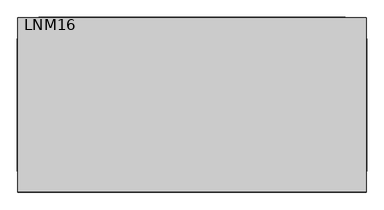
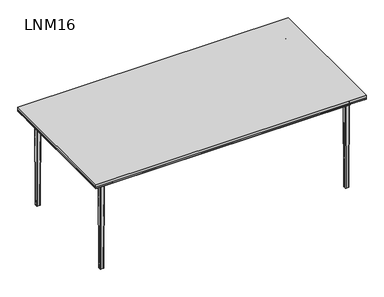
"""IFC4 building model written with IfcOpenShell, lengths in millimetres: furniture geometry, Contact Desks and Operative Twin Desks : LNM16."""

from ifc_helpers import new_model, si_unit, point, frame, origin, place, context, project, spatial, polyline, circle_curve, ellipse_curve, trimmed, outline, extrude, faceted_brep, source, transform, mapped, element, save
from ifc_brep_helpers import plane_surface, cylinder_surface, revolved_surface, extruded_surface, advanced_brep


def lnm16_9b7a4f71(model_context):
    return source(origin(), model_context, "Body", "SolidModel", [
        extrude(outline(polyline([(1000.0, -380.0), (1000.0, -500.0), (880.0, -500.0), (880.0, -380.0), (1000.0, -380.0)])), frame((0.0, 0.0, 710.0), z_axis=(0.0, 0.0, 1.0), x_axis=(1.0, 0.0, 0.0)), (0.0, 0.0, 1.0), 10.0),
        extrude(outline(polyline([(1000.0, 500.0), (1000.0, 380.0), (880.0, 380.0), (880.0, 500.0), (1000.0, 500.0)])), frame((0.0, 0.0, 710.0), z_axis=(0.0, 0.0, 1.0), x_axis=(1.0, 0.0, 0.0)), (0.0, 0.0, 1.0), 10.0),
        extrude(outline(polyline([(-880.0, 500.0), (-880.0, 380.0), (-1000.0, 380.0), (-1000.0, 500.0), (-880.0, 500.0)])), frame((0.0, 0.0, 710.0), z_axis=(0.0, 0.0, 1.0), x_axis=(1.0, 0.0, 0.0)), (0.0, 0.0, 1.0), 10.0),
        extrude(outline(polyline([(-1000.0, 380.0), (-880.0, 380.0), (-880.0, -380.0), (-1000.0, -380.0), (-1000.0, 380.0)])), frame((0.0, 0.0, 710.0), z_axis=(0.0, 0.0, 1.0), x_axis=(1.0, 0.0, 0.0)), (0.0, 0.0, 1.0), 10.0),
        extrude(outline(polyline([(880.0, 380.0), (1000.0, 380.0), (1000.0, -380.0), (880.0, -380.0), (880.0, 380.0)])), frame((0.0, 0.0, 710.0), z_axis=(0.0, 0.0, 1.0), x_axis=(1.0, 0.0, 0.0)), (0.0, 0.0, 1.0), 10.0),
        extrude(outline(polyline([(880.0, -380.0), (880.0, -500.0), (-880.0, -500.0), (-880.0, -380.0), (880.0, -380.0)])), frame((0.0, 0.0, 710.0), z_axis=(0.0, 0.0, 1.0), x_axis=(1.0, 0.0, 0.0)), (0.0, 0.0, 1.0), 10.0),
        extrude(outline(polyline([(880.0, 500.0), (880.0, 380.0), (-880.0, 380.0), (-880.0, 500.0), (880.0, 500.0)])), frame((0.0, 0.0, 710.0), z_axis=(0.0, 0.0, 1.0), x_axis=(1.0, 0.0, 0.0)), (0.0, 0.0, 1.0), 10.0),
        extrude(outline(polyline([(710.0, 880.0), (675.0, 880.0), (675.0, 928.7129935), (710.0, 1001.7129935), (710.0, 880.0)])), frame((0.0, -380.0, 0.0), z_axis=(0.0, 1.0, 0.0), x_axis=(0.0, 0.0, 1.0)), (0.0, 0.0, 1.0), 760.0),
        extrude(outline(polyline([(710.0, -880.0), (710.0, -1001.7129935), (675.0, -928.7129935), (675.0, -880.0), (710.0, -880.0)])), frame((0.0, -380.0, 0.0), z_axis=(0.0, 1.0, 0.0), x_axis=(0.0, 0.0, 1.0)), (0.0, 0.0, 1.0), 760.0),
        extrude(outline(polyline([(380.0, 710.0), (501.7129935, 710.0), (428.7129935, 675.0), (380.0, 675.0), (380.0, 710.0)])), frame((-880.0, 0.0, 0.0), z_axis=(1.0, 0.0, 0.0), x_axis=(0.0, 1.0, 0.0)), (0.0, 0.0, 1.0), 1760.0),
        extrude(outline(polyline([(-380.0, 710.0), (-380.0, 675.0), (-428.7129935, 675.0), (-501.7129935, 710.0), (-380.0, 710.0)])), frame((-880.0, 0.0, 0.0), z_axis=(1.0, 0.0, 0.0), x_axis=(0.0, 1.0, 0.0)), (0.0, 0.0, 1.0), 1760.0),
        faceted_brep([(-880.0, 380.0, 710.0), (-880.0, 500.0, 710.0), (-1000.0, 500.0, 710.0), (-1000.0, 380.0, 710.0), (-880.0, 380.0, 675.0), (-927.0, 380.0, 675.0), (-927.0, 427.0, 675.0), (-880.0, 427.0, 675.0)], [[[0, 1, 2, 3]], [[4, 5, 6, 7]], [[1, 0, 4, 7]], [[0, 3, 5, 4]], [[6, 2, 1, 7]], [[2, 6, 5, 3]]]),
        advanced_brep(
        [(-887.0, 395.0, 675.0), (-887.0, 419.0, 675.0), (-895.0, 427.0, 675.0), (-919.0, 427.0, 675.0), (-927.0, 419.0, 675.0), (-927.0, 395.0, 675.0), (-919.0, 387.0, 675.0), (-895.0, 387.0, 675.0), (-919.0, 392.0, 665.0), (-922.0, 395.0, 665.0), (-922.0, 419.0, 665.0), (-919.0, 422.0, 665.0), (-895.0, 422.0, 665.0), (-892.0, 419.0, 665.0), (-892.0, 395.0, 665.0), (-895.0, 392.0, 665.0), (-887.0, 395.0, 672.0), (-887.0, 419.0, 672.0), (-895.0, 427.0, 672.0), (-919.0, 427.0, 672.0), (-927.0, 419.0, 672.0), (-927.0, 395.0, 672.0), (-919.0, 387.0, 672.0), (-895.0, 387.0, 672.0)],
        [
            (0, 1),
            (1, 2, circle_curve(frame((-895.0, 419.0, 675.0), z_axis=(0.0, 0.0, 1.0), x_axis=(0.0, -1.0000000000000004, 0.0)), 8.0)),
            (2, 3),
            (3, 4, circle_curve(frame((-919.0, 419.0, 675.0), z_axis=(0.0, 0.0, 1.0), x_axis=(0.0, -1.0000000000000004, 0.0)), 8.0)),
            (4, 5),
            (5, 6, circle_curve(frame((-919.0, 395.0, 675.0), z_axis=(0.0, 0.0, 1.0), x_axis=(0.0, -1.0000000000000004, 0.0)), 8.0)),
            (6, 7),
            (7, 0, circle_curve(frame((-895.0, 395.0, 675.0), z_axis=(0.0, 0.0, 1.0), x_axis=(0.0, -1.0000000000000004, 0.0)), 8.0)),
            (8, 9, circle_curve(frame((-919.0, 395.0, 665.0), z_axis=(0.0, 0.0, -1.0), x_axis=(0.0, -1.0000000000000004, 0.0)), 3.0)),
            (9, 10),
            (10, 11, circle_curve(frame((-919.0, 419.0, 665.0), z_axis=(0.0, 0.0, -1.0), x_axis=(-1.0000000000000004, 0.0, 0.0)), 3.0)),
            (11, 12),
            (12, 13, circle_curve(frame((-895.0, 419.0, 665.0), z_axis=(0.0, 0.0, -1.0), x_axis=(0.0, 1.0000000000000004, 0.0)), 3.0)),
            (13, 14),
            (14, 15, circle_curve(frame((-895.0, 395.0, 665.0), z_axis=(0.0, 0.0, -1.0), x_axis=(1.0000000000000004, 0.0, 0.0)), 3.0)),
            (15, 8),
            (0, 16),
            (16, 17),
            (17, 1),
            (17, 18, circle_curve(frame((-895.0, 419.0, 672.0), z_axis=(0.0, 0.0, 1.0), x_axis=(0.0, -1.0000000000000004, 0.0)), 8.0)),
            (18, 2),
            (18, 19),
            (19, 3),
            (19, 20, circle_curve(frame((-919.0, 419.0, 672.0), z_axis=(0.0, 0.0, 1.0), x_axis=(0.0, -1.0000000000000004, 0.0)), 8.0)),
            (20, 4),
            (20, 21),
            (21, 5),
            (21, 22, circle_curve(frame((-919.0, 395.0, 672.0), z_axis=(0.0, 0.0, 1.0), x_axis=(0.0, -1.0000000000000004, 0.0)), 8.0)),
            (22, 6),
            (22, 23),
            (23, 7),
            (23, 16, circle_curve(frame((-895.0, 395.0, 672.0), z_axis=(0.0, 0.0, 1.0), x_axis=(0.0, -1.0000000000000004, 0.0)), 8.0)),
            (21, 9, circle_curve(frame((-930.9600528, 395.0, 663.8856766), z_axis=(0.0, 1.0000000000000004, 0.0), x_axis=(-1.0000000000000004, 0.0, 0.0)), 9.0290787)),
            (8, 22, circle_curve(frame((-919.0, 383.0399472, 663.8856766), z_axis=(1.0000000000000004, 0.0, 0.0), x_axis=(0.0, -1.0000000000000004, 0.0)), 9.0290787)),
            (20, 10, circle_curve(frame((-930.9600528, 419.0, 663.8856766), z_axis=(0.0, 1.0, 0.0), x_axis=(-1.0000000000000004, 0.0, 0.0)), 9.0290787)),
            (19, 11, circle_curve(frame((-919.0, 430.9600528, 663.8856766), z_axis=(1.0000000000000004, 0.0, 0.0), x_axis=(0.0, 1.0000000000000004, 0.0)), 9.0290787)),
            (18, 12, circle_curve(frame((-895.0, 430.9600528, 663.8856766), z_axis=(1.0, 0.0, 0.0), x_axis=(0.0, 1.0000000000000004, 0.0)), 9.0290787)),
            (17, 13, circle_curve(frame((-883.0399472, 419.0, 663.8856766), z_axis=(0.0, -1.0000000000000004, 0.0), x_axis=(1.0000000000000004, 0.0, 0.0)), 9.0290787)),
            (16, 14, circle_curve(frame((-883.0399472, 395.0, 663.8856766), z_axis=(0.0, -1.0, 0.0), x_axis=(1.0000000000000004, 0.0, 0.0)), 9.0290787)),
            (23, 15, circle_curve(frame((-895.0, 383.0399472, 663.8856766), z_axis=(-1.0000000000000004, 0.0, 0.0), x_axis=(0.0, -1.0000000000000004, 0.0)), 9.0290787)),
        ],
        [
            plane_surface(frame((-887.0, 1080.663284, 675.0), z_axis=(0.0, 0.0, 1.0), x_axis=(0.0, 1.0, 0.0))),
            plane_surface(frame((-887.0, 1080.663284, 665.0), z_axis=(0.0, 0.0, -1.0), x_axis=(0.0, -1.0, 0.0))),
            plane_surface(frame((-887.0, 395.0, 675.0), z_axis=(1.0, 0.0, 0.0), x_axis=(0.0, 0.0, -1.0))),
            cylinder_surface(frame((-895.0, 419.0, 665.0), z_axis=(0.0, 0.0, 1.0), x_axis=(0.0, -1.0000000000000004, 0.0)), 8.0),
            plane_surface(frame((-895.0, 427.0, 675.0), z_axis=(0.0, 1.0, 0.0), x_axis=(0.0, 0.0, -1.0))),
            cylinder_surface(frame((-919.0, 419.0, 665.0), z_axis=(0.0, 0.0, 1.0), x_axis=(0.0, -1.0000000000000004, 0.0)), 8.0),
            plane_surface(frame((-927.0, 419.0, 675.0), z_axis=(-1.0, 0.0, 0.0), x_axis=(0.0, 0.0, -1.0))),
            cylinder_surface(frame((-919.0, 395.0, 665.0), z_axis=(0.0, 0.0, 1.0), x_axis=(0.0, -1.0000000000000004, 0.0)), 8.0),
            plane_surface(frame((-919.0, 387.0, 675.0), z_axis=(0.0, -1.0, 0.0), x_axis=(0.0, 0.0, -1.0))),
            cylinder_surface(frame((-895.0, 395.0, 665.0), z_axis=(0.0, 0.0, 1.0), x_axis=(0.0, -1.0000000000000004, 0.0)), 8.0),
            revolved_surface(trimmed(ellipse_curve(frame((-919.0, 383.0399472, 663.8856766), z_axis=(-1.0000000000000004, 0.0, 0.0), x_axis=(0.0, -1.0000000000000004, 0.0)), 9.0290787, 9.0290787), [point((-919.0, 387.0, 672.0))], [point((-919.0, 392.0, 665.0))], True, "CARTESIAN"), (-919.0, 395.0, 0.0), (0.0, 0.0, -1.0)),
            revolved_surface(polyline([(-939.9891315, 395.0, 663.8856766), (-939.9891315, 419.0, 663.8856766)]), (-930.9600528, 395.0, 663.8856766), (0.0, -1.0000000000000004, 0.0)),
            revolved_surface(trimmed(ellipse_curve(frame((-930.9600528, 419.0, 663.8856766), z_axis=(0.0, 1.0000000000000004, 0.0), x_axis=(-1.0000000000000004, 0.0, 0.0)), 9.0290787, 9.0290787), [point((-927.0, 419.0, 672.0))], [point((-922.0, 419.0, 665.0))], True, "CARTESIAN"), (-919.0, 419.0, 0.0), (0.0, 0.0, -1.0)),
            revolved_surface(polyline([(-919.0, 439.98913150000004, 663.8856766), (-895.0, 439.98913150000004, 663.8856766)]), (-919.0, 430.9600528, 663.8856766), (-1.0000000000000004, 0.0, 0.0)),
            revolved_surface(trimmed(ellipse_curve(frame((-895.0, 430.9600528, 663.8856766), z_axis=(1.0000000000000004, 0.0, 0.0), x_axis=(0.0, 1.0000000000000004, 0.0)), 9.0290787, 9.0290787), [point((-895.0, 427.0, 672.0))], [point((-895.0, 422.0, 665.0))], True, "CARTESIAN"), (-895.0, 419.0, 0.0), (0.0, 0.0, -1.0)),
            revolved_surface(polyline([(-874.0108685, 419.0, 663.8856766), (-874.0108685, 395.0, 663.8856766)]), (-883.0399472, 419.0, 663.8856766), (0.0, 1.0000000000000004, 0.0)),
            revolved_surface(trimmed(ellipse_curve(frame((-883.0399472, 395.0, 663.8856766), z_axis=(0.0, -1.0000000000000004, 0.0), x_axis=(1.0000000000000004, 0.0, 0.0)), 9.0290787, 9.0290787), [point((-887.0, 395.0, 672.0))], [point((-892.0, 395.0, 665.0))], True, "CARTESIAN"), (-895.0, 395.0, 0.0), (0.0, 0.0, -1.0)),
            revolved_surface(polyline([(-895.0, 374.01086849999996, 663.8856766), (-919.0, 374.01086849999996, 663.8856766)]), (-895.0, 383.0399472, 663.8856766), (1.0000000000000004, 0.0, 0.0)),
        ],
        [
            (0, [[1, 2, 3, 4, 5, 6, 7, 8]]),
            (1, [[9, 10, 11, 12, 13, 14, 15, 16]]),
            (2, [[-1, 17, 18, 19]]),
            (3, [[-2, -19, 20, 21]]),
            (4, [[-3, -21, 22, 23]]),
            (5, [[-4, -23, 24, 25]]),
            (6, [[-5, -25, 26, 27]]),
            (7, [[-6, -27, 28, 29]]),
            (8, [[-7, -29, 30, 31]]),
            (9, [[-8, -31, 32, -17]]),
            (10, [[33, -9, 34, -28]]),
            (11, [[-33, -26, 35, -10]]),
            (12, [[-35, -24, 36, -11]]),
            (13, [[-36, -22, 37, -12]]),
            (14, [[-37, -20, 38, -13]]),
            (15, [[-38, -18, 39, -14]]),
            (16, [[-39, -32, 40, -15]]),
            (17, [[-34, -16, -40, -30]]),
        ],
    ),
        advanced_brep(
        [(-919.0, 422.0, 665.0), (-922.0, 419.0, 665.0), (-922.0, 395.0, 665.0), (-919.0, 392.0, 665.0), (-895.0, 392.0, 665.0), (-892.0, 395.0, 665.0), (-892.0, 419.0, 665.0), (-895.0, 422.0, 665.0), (-916.0, 419.0, 0.0), (-898.0, 419.0, 0.0), (-895.0, 416.0, 0.0), (-895.0, 398.0, 0.0), (-898.0, 395.0, 0.0), (-916.0, 395.0, 0.0), (-919.0, 398.0, 0.0), (-919.0, 416.0, 0.0)],
        [
            (0, 1, circle_curve(frame((-919.0, 419.0, 665.0), z_axis=(0.0, 0.0, 1.0), x_axis=(0.0, -1.0, 0.0)), 3.0)),
            (1, 2),
            (2, 3, circle_curve(frame((-919.0, 395.0, 665.0), z_axis=(0.0, 0.0, 1.0), x_axis=(0.0, -1.0, 0.0)), 3.0)),
            (3, 4),
            (4, 5, circle_curve(frame((-895.0, 395.0, 665.0), z_axis=(0.0, 0.0, 1.0), x_axis=(0.0, -1.0, 0.0)), 3.0)),
            (5, 6),
            (6, 7, circle_curve(frame((-895.0, 419.0, 665.0), z_axis=(0.0, 0.0, 1.0), x_axis=(0.0, -1.0, 0.0)), 3.0)),
            (7, 0),
            (8, 9),
            (9, 10, circle_curve(frame((-898.0, 416.0, 0.0), z_axis=(0.0, 0.0, -1.0), x_axis=(0.0, -1.0, 0.0)), 3.0)),
            (10, 11),
            (11, 12, circle_curve(frame((-898.0, 398.0, 0.0), z_axis=(0.0, 0.0, -1.0), x_axis=(0.0, -1.0, 0.0)), 3.0)),
            (12, 13),
            (13, 14, circle_curve(frame((-916.0, 398.0, 0.0), z_axis=(0.0, 0.0, -1.0), x_axis=(0.0, -1.0, 0.0)), 3.0)),
            (14, 15),
            (15, 8, circle_curve(frame((-916.0, 416.0, 0.0), z_axis=(0.0, 0.0, -1.0), x_axis=(0.0, -1.0, 0.0)), 3.0)),
            (15, 1),
            (0, 8),
            (14, 2),
            (13, 3),
            (12, 4),
            (11, 5),
            (10, 6),
            (9, 7),
        ],
        [
            plane_surface(frame((-907.0, 407.0, 665.0), z_axis=(0.0, 0.0, 1.0), x_axis=(0.0, 1.0, 0.0))),
            plane_surface(frame((-907.0, 407.0, 0.0), z_axis=(0.0, 0.0, -1.0), x_axis=(0.0, 1.0, 0.0))),
            extruded_surface(trimmed(circle_curve(frame((-916.0, 416.0, 0.0), z_axis=(0.0, 0.0, 1.0), x_axis=(0.0, -1.0, 0.0)), 3.0), [point((-916.0, 419.0, 0.0))], [point((-919.0, 416.0, 0.0))], True, "CARTESIAN"), (-3.0, 3.0, 665.0), 665.0135336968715),
            plane_surface(frame((-919.0, 407.0, 0.0), z_axis=(-0.9999898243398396, 0.0, -0.004511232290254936), x_axis=(0.0, -1.0, 0.0))),
            extruded_surface(trimmed(circle_curve(frame((-916.0, 398.0, 0.0), z_axis=(0.0, 0.0, 1.0), x_axis=(0.0, -1.0, 0.0)), 3.0), [point((-919.0, 398.0, 0.0))], [point((-916.0, 395.0, 0.0))], True, "CARTESIAN"), (-3.0, -3.0, 665.0), 665.0135336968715),
            plane_surface(frame((-907.0, 395.0, 0.0), z_axis=(0.0, -0.9999898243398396, -0.004511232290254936), x_axis=(1.0, 0.0, 0.0))),
            extruded_surface(trimmed(circle_curve(frame((-898.0, 398.0, 0.0), z_axis=(0.0, 0.0, 1.0), x_axis=(0.0, -1.0, 0.0)), 3.0), [point((-898.0, 395.0, 0.0))], [point((-895.0, 398.0, 0.0))], True, "CARTESIAN"), (3.0, -3.0, 665.0), 665.0135336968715),
            plane_surface(frame((-895.0, 407.0, 0.0), z_axis=(0.9999898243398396, 0.0, -0.004511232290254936), x_axis=(0.0, 1.0, 0.0))),
            extruded_surface(trimmed(circle_curve(frame((-898.0, 416.0, 0.0), z_axis=(0.0, 0.0, 1.0), x_axis=(0.0, -1.0, 0.0)), 3.0), [point((-895.0, 416.0, 0.0))], [point((-898.0, 419.0, 0.0))], True, "CARTESIAN"), (3.0, 3.0, 665.0), 665.0135336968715),
            plane_surface(frame((-907.0, 419.0, 0.0), z_axis=(0.0, 0.9999898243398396, -0.004511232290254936), x_axis=(-1.0, 0.0, 0.0))),
        ],
        [
            (0, [[1, 2, 3, 4, 5, 6, 7, 8]]),
            (1, [[9, 10, 11, 12, 13, 14, 15, 16]]),
            (2, [[-16, 17, -1, 18]]),
            (3, [[-15, 19, -2, -17]]),
            (4, [[-14, 20, -3, -19]]),
            (5, [[-13, 21, -4, -20]]),
            (6, [[-12, 22, -5, -21]]),
            (7, [[-11, 23, -6, -22]]),
            (8, [[-10, 24, -7, -23]]),
            (9, [[-9, -18, -8, -24]]),
        ],
    ),
        faceted_brep([(880.0, -380.0, 710.0), (880.0, -500.0, 710.0), (1000.0, -500.0, 710.0), (1000.0, -380.0, 710.0), (880.0, -380.0, 675.0), (927.0, -380.0, 675.0), (927.0, -427.0, 675.0), (880.0, -427.0, 675.0)], [[[0, 1, 2, 3]], [[4, 5, 6, 7]], [[1, 0, 4, 7]], [[0, 3, 5, 4]], [[6, 2, 1, 7]], [[2, 6, 5, 3]]]),
        advanced_brep(
        [(887.0, -395.0, 675.0), (887.0, -419.0, 675.0), (895.0, -427.0, 675.0), (919.0, -427.0, 675.0), (927.0, -419.0, 675.0), (927.0, -395.0, 675.0), (919.0, -387.0, 675.0), (895.0, -387.0, 675.0), (919.0, -392.0, 665.0), (922.0, -395.0, 665.0), (922.0, -419.0, 665.0), (919.0, -422.0, 665.0), (895.0, -422.0, 665.0), (892.0, -419.0, 665.0), (892.0, -395.0, 665.0), (895.0, -392.0, 665.0), (887.0, -395.0, 672.0), (887.0, -419.0, 672.0), (895.0, -427.0, 672.0), (919.0, -427.0, 672.0), (927.0, -419.0, 672.0), (927.0, -395.0, 672.0), (919.0, -387.0, 672.0), (895.0, -387.0, 672.0)],
        [
            (0, 1),
            (1, 2, circle_curve(frame((895.0, -419.0, 675.0), z_axis=(0.0, 0.0, 1.0), x_axis=(0.0, 1.0000000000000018, 0.0)), 8.0)),
            (2, 3),
            (3, 4, circle_curve(frame((919.0, -419.0, 675.0), z_axis=(0.0, 0.0, 1.0), x_axis=(0.0, 1.0000000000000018, 0.0)), 8.0)),
            (4, 5),
            (5, 6, circle_curve(frame((919.0, -395.0, 675.0), z_axis=(0.0, 0.0, 1.0), x_axis=(0.0, 1.0000000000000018, 0.0)), 8.0)),
            (6, 7),
            (7, 0, circle_curve(frame((895.0, -395.0, 675.0), z_axis=(0.0, 0.0, 1.0), x_axis=(0.0, 1.0000000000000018, 0.0)), 8.0)),
            (8, 9, circle_curve(frame((919.0, -395.0, 665.0), z_axis=(0.0, 0.0, -1.0), x_axis=(0.0, 1.0000000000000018, 0.0)), 3.0)),
            (9, 10),
            (10, 11, circle_curve(frame((919.0, -419.0, 665.0), z_axis=(0.0, 0.0, -1.0), x_axis=(1.0000000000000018, 0.0, 0.0)), 3.0)),
            (11, 12),
            (12, 13, circle_curve(frame((895.0, -419.0, 665.0), z_axis=(0.0, 0.0, -1.0), x_axis=(0.0, -1.0000000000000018, 0.0)), 3.0)),
            (13, 14),
            (14, 15, circle_curve(frame((895.0, -395.0, 665.0), z_axis=(0.0, 0.0, -1.0), x_axis=(-1.0000000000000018, 0.0, 0.0)), 3.0)),
            (15, 8),
            (0, 16),
            (16, 17),
            (17, 1),
            (17, 18, circle_curve(frame((895.0, -419.0, 672.0), z_axis=(0.0, 0.0, 1.0), x_axis=(0.0, 1.0000000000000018, 0.0)), 8.0)),
            (18, 2),
            (18, 19),
            (19, 3),
            (19, 20, circle_curve(frame((919.0, -419.0, 672.0), z_axis=(0.0, 0.0, 1.0), x_axis=(0.0, 1.0000000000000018, 0.0)), 8.0)),
            (20, 4),
            (20, 21),
            (21, 5),
            (21, 22, circle_curve(frame((919.0, -395.0, 672.0), z_axis=(0.0, 0.0, 1.0), x_axis=(0.0, 1.0000000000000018, 0.0)), 8.0)),
            (22, 6),
            (22, 23),
            (23, 7),
            (23, 16, circle_curve(frame((895.0, -395.0, 672.0), z_axis=(0.0, 0.0, 1.0), x_axis=(0.0, 1.0000000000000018, 0.0)), 8.0)),
            (21, 9, circle_curve(frame((930.9600528, -395.0, 663.8856766), z_axis=(0.0, -1.0000000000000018, 0.0), x_axis=(1.0000000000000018, 0.0, 0.0)), 9.0290787)),
            (8, 22, circle_curve(frame((919.0, -383.0399472, 663.8856766), z_axis=(-1.0000000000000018, 0.0, 0.0), x_axis=(0.0, 1.0000000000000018, 0.0)), 9.0290787)),
            (20, 10, circle_curve(frame((930.9600528, -419.0, 663.8856766), z_axis=(0.0, -1.0, 0.0), x_axis=(1.0000000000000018, 0.0, 0.0)), 9.0290787)),
            (19, 11, circle_curve(frame((919.0, -430.9600528, 663.8856766), z_axis=(-1.0000000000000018, 0.0, 0.0), x_axis=(0.0, -1.0000000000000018, 0.0)), 9.0290787)),
            (18, 12, circle_curve(frame((895.0, -430.9600528, 663.8856766), z_axis=(-1.0, 0.0, 0.0), x_axis=(0.0, -1.0000000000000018, 0.0)), 9.0290787)),
            (17, 13, circle_curve(frame((883.0399472, -419.0, 663.8856766), z_axis=(0.0, 1.0000000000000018, 0.0), x_axis=(-1.0000000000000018, 0.0, 0.0)), 9.0290787)),
            (16, 14, circle_curve(frame((883.0399472, -395.0, 663.8856766), z_axis=(0.0, 1.0, 0.0), x_axis=(-1.0000000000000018, 0.0, 0.0)), 9.0290787)),
            (23, 15, circle_curve(frame((895.0, -383.0399472, 663.8856766), z_axis=(1.0000000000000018, 0.0, 0.0), x_axis=(0.0, 1.0000000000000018, 0.0)), 9.0290787)),
        ],
        [
            plane_surface(frame((887.0, -1080.663284, 675.0), z_axis=(0.0, 0.0, 1.0), x_axis=(0.0, -1.0, 0.0))),
            plane_surface(frame((887.0, -1080.663284, 665.0), z_axis=(0.0, 0.0, -1.0), x_axis=(0.0, 1.0, 0.0))),
            plane_surface(frame((887.0, -395.0, 675.0), z_axis=(-1.0, 0.0, 0.0), x_axis=(0.0, 0.0, -1.0))),
            cylinder_surface(frame((895.0, -419.0, 665.0), z_axis=(0.0, 0.0, 1.0), x_axis=(0.0, 1.0000000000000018, 0.0)), 8.0),
            plane_surface(frame((895.0, -427.0, 675.0), z_axis=(0.0, -1.0, 0.0), x_axis=(0.0, 0.0, -1.0))),
            cylinder_surface(frame((919.0, -419.0, 665.0), z_axis=(0.0, 0.0, 1.0), x_axis=(0.0, 1.0000000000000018, 0.0)), 8.0),
            plane_surface(frame((927.0, -419.0, 675.0), z_axis=(1.0, 0.0, 0.0), x_axis=(0.0, 0.0, -1.0))),
            cylinder_surface(frame((919.0, -395.0, 665.0), z_axis=(0.0, 0.0, 1.0), x_axis=(0.0, 1.0000000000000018, 0.0)), 8.0),
            plane_surface(frame((919.0, -387.0, 675.0), z_axis=(0.0, 1.0, 0.0), x_axis=(0.0, 0.0, -1.0))),
            cylinder_surface(frame((895.0, -395.0, 665.0), z_axis=(0.0, 0.0, 1.0), x_axis=(0.0, 1.0000000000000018, 0.0)), 8.0),
            revolved_surface(trimmed(ellipse_curve(frame((919.0, -383.0399472, 663.8856766), z_axis=(1.0000000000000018, 0.0, 0.0), x_axis=(0.0, 1.0000000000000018, 0.0)), 9.0290787, 9.0290787), [point((919.0, -387.0, 672.0))], [point((919.0, -392.0, 665.0))], True, "CARTESIAN"), (919.0, -395.0, 0.0), (0.0, 0.0, -1.0)),
            revolved_surface(polyline([(939.9891315, -395.0, 663.8856766), (939.9891315, -419.0000000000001, 663.8856766)]), (930.9600528, -395.0, 663.8856766), (0.0, 1.0000000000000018, 0.0)),
            revolved_surface(trimmed(ellipse_curve(frame((930.9600528, -419.0, 663.8856766), z_axis=(0.0, -1.0000000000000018, 0.0), x_axis=(1.0000000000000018, 0.0, 0.0)), 9.0290787, 9.0290787), [point((927.0, -419.0, 672.0))], [point((922.0, -419.0, 665.0))], True, "CARTESIAN"), (919.0, -419.0, 0.0), (0.0, 0.0, -1.0)),
            revolved_surface(polyline([(919.0, -439.98913150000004, 663.8856766), (894.9999999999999, -439.98913150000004, 663.8856766)]), (919.0, -430.9600528, 663.8856766), (1.0000000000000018, 0.0, 0.0)),
            revolved_surface(trimmed(ellipse_curve(frame((895.0, -430.9600528, 663.8856766), z_axis=(-1.0000000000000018, 0.0, 0.0), x_axis=(0.0, -1.0000000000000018, 0.0)), 9.0290787, 9.0290787), [point((895.0, -427.0, 672.0))], [point((895.0, -422.0, 665.0))], True, "CARTESIAN"), (895.0, -419.0, 0.0), (0.0, 0.0, -1.0)),
            revolved_surface(polyline([(874.0108685, -419.0, 663.8856766), (874.0108685, -394.9999999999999, 663.8856766)]), (883.0399472, -419.0, 663.8856766), (0.0, -1.0000000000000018, 0.0)),
            revolved_surface(trimmed(ellipse_curve(frame((883.0399472, -395.0, 663.8856766), z_axis=(0.0, 1.0000000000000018, 0.0), x_axis=(-1.0000000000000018, 0.0, 0.0)), 9.0290787, 9.0290787), [point((887.0, -395.0, 672.0))], [point((892.0, -395.0, 665.0))], True, "CARTESIAN"), (895.0, -395.0, 0.0), (0.0, 0.0, -1.0)),
            revolved_surface(polyline([(895.0, -374.01086849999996, 663.8856766), (919.0000000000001, -374.01086849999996, 663.8856766)]), (895.0, -383.0399472, 663.8856766), (-1.0000000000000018, 0.0, 0.0)),
        ],
        [
            (0, [[1, 2, 3, 4, 5, 6, 7, 8]]),
            (1, [[9, 10, 11, 12, 13, 14, 15, 16]]),
            (2, [[-1, 17, 18, 19]]),
            (3, [[-2, -19, 20, 21]]),
            (4, [[-3, -21, 22, 23]]),
            (5, [[-4, -23, 24, 25]]),
            (6, [[-5, -25, 26, 27]]),
            (7, [[-6, -27, 28, 29]]),
            (8, [[-7, -29, 30, 31]]),
            (9, [[-8, -31, 32, -17]]),
            (10, [[33, -9, 34, -28]]),
            (11, [[-33, -26, 35, -10]]),
            (12, [[-35, -24, 36, -11]]),
            (13, [[-36, -22, 37, -12]]),
            (14, [[-37, -20, 38, -13]]),
            (15, [[-38, -18, 39, -14]]),
            (16, [[-39, -32, 40, -15]]),
            (17, [[-34, -16, -40, -30]]),
        ],
    ),
        advanced_brep(
        [(919.0, -422.0, 665.0), (922.0, -419.0, 665.0), (922.0, -395.0, 665.0), (919.0, -392.0, 665.0), (895.0, -392.0, 665.0), (892.0, -395.0, 665.0), (892.0, -419.0, 665.0), (895.0, -422.0, 665.0), (916.0, -419.0, 0.0), (898.0, -419.0, 0.0), (895.0, -416.0, 0.0), (895.0, -398.0, 0.0), (898.0, -395.0, 0.0), (916.0, -395.0, 0.0), (919.0, -398.0, 0.0), (919.0, -416.0, 0.0)],
        [
            (0, 1, circle_curve(frame((919.0, -419.0, 665.0), z_axis=(0.0, 0.0, 1.0), x_axis=(0.0, 1.0, 0.0)), 3.0)),
            (1, 2),
            (2, 3, circle_curve(frame((919.0, -395.0, 665.0), z_axis=(0.0, 0.0, 1.0), x_axis=(0.0, 1.0, 0.0)), 3.0)),
            (3, 4),
            (4, 5, circle_curve(frame((895.0, -395.0, 665.0), z_axis=(0.0, 0.0, 1.0), x_axis=(0.0, 1.0, 0.0)), 3.0)),
            (5, 6),
            (6, 7, circle_curve(frame((895.0, -419.0, 665.0), z_axis=(0.0, 0.0, 1.0), x_axis=(0.0, 1.0, 0.0)), 3.0)),
            (7, 0),
            (8, 9),
            (9, 10, circle_curve(frame((898.0, -416.0, 0.0), z_axis=(0.0, 0.0, -1.0), x_axis=(0.0, 1.0, 0.0)), 3.0)),
            (10, 11),
            (11, 12, circle_curve(frame((898.0, -398.0, 0.0), z_axis=(0.0, 0.0, -1.0), x_axis=(0.0, 1.0, 0.0)), 3.0)),
            (12, 13),
            (13, 14, circle_curve(frame((916.0, -398.0, 0.0), z_axis=(0.0, 0.0, -1.0), x_axis=(0.0, 1.0, 0.0)), 3.0)),
            (14, 15),
            (15, 8, circle_curve(frame((916.0, -416.0, 0.0), z_axis=(0.0, 0.0, -1.0), x_axis=(0.0, 1.0, 0.0)), 3.0)),
            (15, 1),
            (0, 8),
            (14, 2),
            (13, 3),
            (12, 4),
            (11, 5),
            (10, 6),
            (9, 7),
        ],
        [
            plane_surface(frame((907.0, -407.0, 665.0), z_axis=(0.0, 0.0, 1.0), x_axis=(0.0, -1.0, 0.0))),
            plane_surface(frame((907.0, -407.0, 0.0), z_axis=(0.0, 0.0, -1.0), x_axis=(0.0, -1.0, 0.0))),
            extruded_surface(trimmed(circle_curve(frame((916.0, -416.0, 0.0), z_axis=(0.0, 0.0, 1.0), x_axis=(0.0, 1.0, 0.0)), 3.0), [point((916.0, -419.0, 0.0))], [point((919.0, -416.0, 0.0))], True, "CARTESIAN"), (3.0, -3.0, 665.0), 665.0135336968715),
            plane_surface(frame((919.0, -407.0, 0.0), z_axis=(0.9999898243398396, 0.0, -0.004511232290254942), x_axis=(0.0, 1.0, 0.0))),
            extruded_surface(trimmed(circle_curve(frame((916.0, -398.0, 0.0), z_axis=(0.0, 0.0, 1.0), x_axis=(0.0, 1.0, 0.0)), 3.0), [point((919.0, -398.0, 0.0))], [point((916.0, -395.0, 0.0))], True, "CARTESIAN"), (3.0, 3.0, 665.0), 665.0135336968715),
            plane_surface(frame((907.0, -395.0, 0.0), z_axis=(0.0, 0.9999898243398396, -0.004511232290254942), x_axis=(-1.0, 0.0, 0.0))),
            extruded_surface(trimmed(circle_curve(frame((898.0, -398.0, 0.0), z_axis=(0.0, 0.0, 1.0), x_axis=(0.0, 1.0, 0.0)), 3.0), [point((898.0, -395.0, 0.0))], [point((895.0, -398.0, 0.0))], True, "CARTESIAN"), (-3.0, 3.0, 665.0), 665.0135336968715),
            plane_surface(frame((895.0, -407.0, 0.0), z_axis=(-0.9999898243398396, 0.0, -0.004511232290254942), x_axis=(0.0, -1.0, 0.0))),
            extruded_surface(trimmed(circle_curve(frame((898.0, -416.0, 0.0), z_axis=(0.0, 0.0, 1.0), x_axis=(0.0, 1.0, 0.0)), 3.0), [point((895.0, -416.0, 0.0))], [point((898.0, -419.0, 0.0))], True, "CARTESIAN"), (-3.0, -3.0, 665.0), 665.0135336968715),
            plane_surface(frame((907.0, -419.0, 0.0), z_axis=(0.0, -0.9999898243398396, -0.004511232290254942), x_axis=(1.0, 0.0, 0.0))),
        ],
        [
            (0, [[1, 2, 3, 4, 5, 6, 7, 8]]),
            (1, [[9, 10, 11, 12, 13, 14, 15, 16]]),
            (2, [[-16, 17, -1, 18]]),
            (3, [[-15, 19, -2, -17]]),
            (4, [[-14, 20, -3, -19]]),
            (5, [[-13, 21, -4, -20]]),
            (6, [[-12, 22, -5, -21]]),
            (7, [[-11, 23, -6, -22]]),
            (8, [[-10, 24, -7, -23]]),
            (9, [[-9, -18, -8, -24]]),
        ],
    ),
        faceted_brep([(880.0, 380.0, 710.0), (1000.0, 380.0, 710.0), (1000.0, 500.0, 710.0), (880.0, 500.0, 710.0), (880.0, 380.0, 675.0), (880.0, 427.0, 675.0), (927.0, 427.0, 675.0), (927.0, 380.0, 675.0)], [[[0, 1, 2, 3]], [[4, 5, 6, 7]], [[1, 0, 4, 7]], [[0, 3, 5, 4]], [[6, 2, 1, 7]], [[2, 6, 5, 3]]]),
        advanced_brep(
        [(895.0, 387.0, 675.0), (919.0, 387.0, 675.0), (927.0, 395.0, 675.0), (927.0, 419.0, 675.0), (919.0, 427.0, 675.0), (895.0, 427.0, 675.0), (887.0, 419.0, 675.0), (887.0, 395.0, 675.0), (892.0, 419.0, 665.0), (895.0, 422.0, 665.0), (919.0, 422.0, 665.0), (922.0, 419.0, 665.0), (922.0, 395.0, 665.0), (919.0, 392.0, 665.0), (895.0, 392.0, 665.0), (892.0, 395.0, 665.0), (895.0, 387.0, 672.0), (919.0, 387.0, 672.0), (927.0, 395.0, 672.0), (927.0, 419.0, 672.0), (919.0, 427.0, 672.0), (895.0, 427.0, 672.0), (887.0, 419.0, 672.0), (887.0, 395.0, 672.0)],
        [
            (0, 1),
            (1, 2, circle_curve(frame((919.0, 395.0, 675.0), z_axis=(0.0, 0.0, 1.0), x_axis=(-1.0000000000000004, 0.0, 0.0)), 8.0)),
            (2, 3),
            (3, 4, circle_curve(frame((919.0, 419.0, 675.0), z_axis=(0.0, 0.0, 1.0), x_axis=(-1.0000000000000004, 0.0, 0.0)), 8.0)),
            (4, 5),
            (5, 6, circle_curve(frame((895.0, 419.0, 675.0), z_axis=(0.0, 0.0, 1.0), x_axis=(-1.0000000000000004, 0.0, 0.0)), 8.0)),
            (6, 7),
            (7, 0, circle_curve(frame((895.0, 395.0, 675.0), z_axis=(0.0, 0.0, 1.0), x_axis=(-1.0000000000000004, 0.0, 0.0)), 8.0)),
            (8, 9, circle_curve(frame((895.0, 419.0, 665.0), z_axis=(0.0, 0.0, -1.0), x_axis=(-1.0000000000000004, 0.0, 0.0)), 3.0)),
            (9, 10),
            (10, 11, circle_curve(frame((919.0, 419.0, 665.0), z_axis=(0.0, 0.0, -1.0), x_axis=(0.0, 1.0000000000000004, 0.0)), 3.0)),
            (11, 12),
            (12, 13, circle_curve(frame((919.0, 395.0, 665.0), z_axis=(0.0, 0.0, -1.0), x_axis=(1.0000000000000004, 0.0, 0.0)), 3.0)),
            (13, 14),
            (14, 15, circle_curve(frame((895.0, 395.0, 665.0), z_axis=(0.0, 0.0, -1.0), x_axis=(0.0, -1.0000000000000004, 0.0)), 3.0)),
            (15, 8),
            (0, 16),
            (16, 17),
            (17, 1),
            (17, 18, circle_curve(frame((919.0, 395.0, 672.0), z_axis=(0.0, 0.0, 1.0), x_axis=(-1.0000000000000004, 0.0, 0.0)), 8.0)),
            (18, 2),
            (18, 19),
            (19, 3),
            (19, 20, circle_curve(frame((919.0, 419.0, 672.0), z_axis=(0.0, 0.0, 1.0), x_axis=(-1.0000000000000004, 0.0, 0.0)), 8.0)),
            (20, 4),
            (20, 21),
            (21, 5),
            (21, 22, circle_curve(frame((895.0, 419.0, 672.0), z_axis=(0.0, 0.0, 1.0), x_axis=(-1.0000000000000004, 0.0, 0.0)), 8.0)),
            (22, 6),
            (22, 23),
            (23, 7),
            (23, 16, circle_curve(frame((895.0, 395.0, 672.0), z_axis=(0.0, 0.0, 1.0), x_axis=(-1.0000000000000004, 0.0, 0.0)), 8.0)),
            (21, 9, circle_curve(frame((895.0, 430.9600528, 663.8856766), z_axis=(1.0000000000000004, 0.0, 0.0), x_axis=(0.0, 1.0000000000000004, 0.0)), 9.0290787)),
            (8, 22, circle_curve(frame((883.0399472, 419.0, 663.8856766), z_axis=(0.0, -1.0000000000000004, 0.0), x_axis=(-1.0000000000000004, 0.0, 0.0)), 9.0290787)),
            (20, 10, circle_curve(frame((919.0, 430.9600528, 663.8856766), z_axis=(1.0, 0.0, 0.0), x_axis=(0.0, 1.0000000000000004, 0.0)), 9.0290787)),
            (19, 11, circle_curve(frame((930.9600528, 419.0, 663.8856766), z_axis=(0.0, -1.0000000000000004, 0.0), x_axis=(1.0000000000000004, 0.0, 0.0)), 9.0290787)),
            (18, 12, circle_curve(frame((930.9600528, 395.0, 663.8856766), z_axis=(0.0, -1.0, 0.0), x_axis=(1.0000000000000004, 0.0, 0.0)), 9.0290787)),
            (17, 13, circle_curve(frame((919.0, 383.0399472, 663.8856766), z_axis=(-1.0000000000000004, 0.0, 0.0), x_axis=(0.0, -1.0000000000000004, 0.0)), 9.0290787)),
            (16, 14, circle_curve(frame((895.0, 383.0399472, 663.8856766), z_axis=(-1.0, 0.0, 0.0), x_axis=(0.0, -1.0000000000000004, 0.0)), 9.0290787)),
            (23, 15, circle_curve(frame((883.0399472, 395.0, 663.8856766), z_axis=(0.0, 1.0000000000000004, 0.0), x_axis=(-1.0000000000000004, 0.0, 0.0)), 9.0290787)),
        ],
        [
            plane_surface(frame((1580.663284, 387.0, 675.0), z_axis=(0.0, 0.0, 1.0), x_axis=(1.0, 0.0, 0.0))),
            plane_surface(frame((1580.663284, 387.0, 665.0), z_axis=(0.0, 0.0, -1.0), x_axis=(-1.0, 0.0, 0.0))),
            plane_surface(frame((895.0, 387.0, 675.0), z_axis=(0.0, -1.0, 0.0), x_axis=(0.0, 0.0, -1.0))),
            cylinder_surface(frame((919.0, 395.0, 665.0), z_axis=(0.0, 0.0, 1.0), x_axis=(-1.0000000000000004, 0.0, 0.0)), 8.0),
            plane_surface(frame((927.0, 395.0, 675.0), z_axis=(1.0, 0.0, 0.0), x_axis=(0.0, 0.0, -1.0))),
            cylinder_surface(frame((919.0, 419.0, 665.0), z_axis=(0.0, 0.0, 1.0), x_axis=(-1.0000000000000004, 0.0, 0.0)), 8.0),
            plane_surface(frame((919.0, 427.0, 675.0), z_axis=(0.0, 1.0, 0.0), x_axis=(0.0, 0.0, -1.0))),
            cylinder_surface(frame((895.0, 419.0, 665.0), z_axis=(0.0, 0.0, 1.0), x_axis=(-1.0000000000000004, 0.0, 0.0)), 8.0),
            plane_surface(frame((887.0, 419.0, 675.0), z_axis=(-1.0, 0.0, 0.0), x_axis=(0.0, 0.0, -1.0))),
            cylinder_surface(frame((895.0, 395.0, 665.0), z_axis=(0.0, 0.0, 1.0), x_axis=(-1.0000000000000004, 0.0, 0.0)), 8.0),
            revolved_surface(trimmed(ellipse_curve(frame((883.0399472, 419.0, 663.8856766), z_axis=(0.0, 1.0000000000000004, 0.0), x_axis=(-1.0000000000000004, 0.0, 0.0)), 9.0290787, 9.0290787), [point((887.0, 419.0, 672.0))], [point((892.0, 419.0, 665.0))], True, "CARTESIAN"), (895.0, 419.0, 0.0), (0.0, 0.0, -1.0)),
            revolved_surface(polyline([(895.0, 439.98913150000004, 663.8856766), (919.0, 439.98913150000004, 663.8856766)]), (895.0, 430.9600528, 663.8856766), (-1.0000000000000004, 0.0, 0.0)),
            revolved_surface(trimmed(ellipse_curve(frame((919.0, 430.9600528, 663.8856766), z_axis=(1.0000000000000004, 0.0, 0.0), x_axis=(0.0, 1.0000000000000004, 0.0)), 9.0290787, 9.0290787), [point((919.0, 427.0, 672.0))], [point((919.0, 422.0, 665.0))], True, "CARTESIAN"), (919.0, 419.0, 0.0), (0.0, 0.0, -1.0)),
            revolved_surface(polyline([(939.9891315, 419.0, 663.8856766), (939.9891315, 395.0, 663.8856766)]), (930.9600528, 419.0, 663.8856766), (0.0, 1.0000000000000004, 0.0)),
            revolved_surface(trimmed(ellipse_curve(frame((930.9600528, 395.0, 663.8856766), z_axis=(0.0, -1.0000000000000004, 0.0), x_axis=(1.0000000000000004, 0.0, 0.0)), 9.0290787, 9.0290787), [point((927.0, 395.0, 672.0))], [point((922.0, 395.0, 665.0))], True, "CARTESIAN"), (919.0, 395.0, 0.0), (0.0, 0.0, -1.0)),
            revolved_surface(polyline([(919.0, 374.01086849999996, 663.8856766), (895.0, 374.01086849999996, 663.8856766)]), (919.0, 383.0399472, 663.8856766), (1.0000000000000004, 0.0, 0.0)),
            revolved_surface(trimmed(ellipse_curve(frame((895.0, 383.0399472, 663.8856766), z_axis=(-1.0000000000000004, 0.0, 0.0), x_axis=(0.0, -1.0000000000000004, 0.0)), 9.0290787, 9.0290787), [point((895.0, 387.0, 672.0))], [point((895.0, 392.0, 665.0))], True, "CARTESIAN"), (895.0, 395.0, 0.0), (0.0, 0.0, -1.0)),
            revolved_surface(polyline([(874.0108685, 395.0, 663.8856766), (874.0108685, 419.0, 663.8856766)]), (883.0399472, 395.0, 663.8856766), (0.0, -1.0000000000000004, 0.0)),
        ],
        [
            (0, [[1, 2, 3, 4, 5, 6, 7, 8]]),
            (1, [[9, 10, 11, 12, 13, 14, 15, 16]]),
            (2, [[-1, 17, 18, 19]]),
            (3, [[-2, -19, 20, 21]]),
            (4, [[-3, -21, 22, 23]]),
            (5, [[-4, -23, 24, 25]]),
            (6, [[-5, -25, 26, 27]]),
            (7, [[-6, -27, 28, 29]]),
            (8, [[-7, -29, 30, 31]]),
            (9, [[-8, -31, 32, -17]]),
            (10, [[33, -9, 34, -28]]),
            (11, [[-33, -26, 35, -10]]),
            (12, [[-35, -24, 36, -11]]),
            (13, [[-36, -22, 37, -12]]),
            (14, [[-37, -20, 38, -13]]),
            (15, [[-38, -18, 39, -14]]),
            (16, [[-39, -32, 40, -15]]),
            (17, [[-34, -16, -40, -30]]),
        ],
    ),
        advanced_brep(
        [(922.0, 419.0, 665.0), (919.0, 422.0, 665.0), (895.0, 422.0, 665.0), (892.0, 419.0, 665.0), (892.0, 395.0, 665.0), (895.0, 392.0, 665.0), (919.0, 392.0, 665.0), (922.0, 395.0, 665.0), (919.0, 416.0, 0.0), (919.0, 398.0, 0.0), (916.0, 395.0, 0.0), (898.0, 395.0, 0.0), (895.0, 398.0, 0.0), (895.0, 416.0, 0.0), (898.0, 419.0, 0.0), (916.0, 419.0, 0.0)],
        [
            (0, 1, circle_curve(frame((919.0, 419.0, 665.0), z_axis=(0.0, 0.0, 1.0), x_axis=(-1.0, 0.0, 0.0)), 3.0)),
            (1, 2),
            (2, 3, circle_curve(frame((895.0, 419.0, 665.0), z_axis=(0.0, 0.0, 1.0), x_axis=(-1.0, 0.0, 0.0)), 3.0)),
            (3, 4),
            (4, 5, circle_curve(frame((895.0, 395.0, 665.0), z_axis=(0.0, 0.0, 1.0), x_axis=(-1.0, 0.0, 0.0)), 3.0)),
            (5, 6),
            (6, 7, circle_curve(frame((919.0, 395.0, 665.0), z_axis=(0.0, 0.0, 1.0), x_axis=(-1.0, 0.0, 0.0)), 3.0)),
            (7, 0),
            (8, 9),
            (9, 10, circle_curve(frame((916.0, 398.0, 0.0), z_axis=(0.0, 0.0, -1.0), x_axis=(-1.0, 0.0, 0.0)), 3.0)),
            (10, 11),
            (11, 12, circle_curve(frame((898.0, 398.0, 0.0), z_axis=(0.0, 0.0, -1.0), x_axis=(-1.0, 0.0, 0.0)), 3.0)),
            (12, 13),
            (13, 14, circle_curve(frame((898.0, 416.0, 0.0), z_axis=(0.0, 0.0, -1.0), x_axis=(-1.0, 0.0, 0.0)), 3.0)),
            (14, 15),
            (15, 8, circle_curve(frame((916.0, 416.0, 0.0), z_axis=(0.0, 0.0, -1.0), x_axis=(-1.0, 0.0, 0.0)), 3.0)),
            (15, 1),
            (0, 8),
            (14, 2),
            (13, 3),
            (12, 4),
            (11, 5),
            (10, 6),
            (9, 7),
        ],
        [
            plane_surface(frame((907.0, 407.0, 665.0), z_axis=(0.0, 0.0, 1.0), x_axis=(1.0, 0.0, 0.0))),
            plane_surface(frame((907.0, 407.0, 0.0), z_axis=(0.0, 0.0, -1.0), x_axis=(1.0, 0.0, 0.0))),
            extruded_surface(trimmed(circle_curve(frame((916.0, 416.0, 0.0), z_axis=(0.0, 0.0, 1.0), x_axis=(-1.0, 0.0, 0.0)), 3.0), [point((919.0, 416.0, 0.0))], [point((916.0, 419.0, 0.0))], True, "CARTESIAN"), (3.0, 3.0, 665.0), 665.0135336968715),
            plane_surface(frame((907.0, 419.0, 0.0), z_axis=(0.0, 0.9999898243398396, -0.004511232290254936), x_axis=(-1.0, 0.0, 0.0))),
            extruded_surface(trimmed(circle_curve(frame((898.0, 416.0, 0.0), z_axis=(0.0, 0.0, 1.0), x_axis=(-1.0, 0.0, 0.0)), 3.0), [point((898.0, 419.0, 0.0))], [point((895.0, 416.0, 0.0))], True, "CARTESIAN"), (-3.0, 3.0, 665.0), 665.0135336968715),
            plane_surface(frame((895.0, 407.0, 0.0), z_axis=(-0.9999898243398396, 0.0, -0.004511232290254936), x_axis=(0.0, -1.0, 0.0))),
            extruded_surface(trimmed(circle_curve(frame((898.0, 398.0, 0.0), z_axis=(0.0, 0.0, 1.0), x_axis=(-1.0, 0.0, 0.0)), 3.0), [point((895.0, 398.0, 0.0))], [point((898.0, 395.0, 0.0))], True, "CARTESIAN"), (-3.0, -3.0, 665.0), 665.0135336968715),
            plane_surface(frame((907.0, 395.0, 0.0), z_axis=(0.0, -0.9999898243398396, -0.004511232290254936), x_axis=(1.0, 0.0, 0.0))),
            extruded_surface(trimmed(circle_curve(frame((916.0, 398.0, 0.0), z_axis=(0.0, 0.0, 1.0), x_axis=(-1.0, 0.0, 0.0)), 3.0), [point((916.0, 395.0, 0.0))], [point((919.0, 398.0, 0.0))], True, "CARTESIAN"), (3.0, -3.0, 665.0), 665.0135336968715),
            plane_surface(frame((919.0, 407.0, 0.0), z_axis=(0.9999898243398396, 0.0, -0.004511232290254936), x_axis=(0.0, 1.0, 0.0))),
        ],
        [
            (0, [[1, 2, 3, 4, 5, 6, 7, 8]]),
            (1, [[9, 10, 11, 12, 13, 14, 15, 16]]),
            (2, [[-16, 17, -1, 18]]),
            (3, [[-15, 19, -2, -17]]),
            (4, [[-14, 20, -3, -19]]),
            (5, [[-13, 21, -4, -20]]),
            (6, [[-12, 22, -5, -21]]),
            (7, [[-11, 23, -6, -22]]),
            (8, [[-10, 24, -7, -23]]),
            (9, [[-9, -18, -8, -24]]),
        ],
    ),
        faceted_brep([(-880.0, -380.0, 710.0), (-1000.0, -380.0, 710.0), (-1000.0, -500.0, 710.0), (-880.0, -500.0, 710.0), (-880.0, -380.0, 675.0), (-880.0, -427.0, 675.0), (-927.0, -427.0, 675.0), (-927.0, -380.0, 675.0)], [[[0, 1, 2, 3]], [[4, 5, 6, 7]], [[1, 0, 4, 7]], [[0, 3, 5, 4]], [[6, 2, 1, 7]], [[2, 6, 5, 3]]]),
        advanced_brep(
        [(-895.0, -387.0, 675.0), (-919.0, -387.0, 675.0), (-927.0, -395.0, 675.0), (-927.0, -419.0, 675.0), (-919.0, -427.0, 675.0), (-895.0, -427.0, 675.0), (-887.0, -419.0, 675.0), (-887.0, -395.0, 675.0), (-892.0, -419.0, 665.0), (-895.0, -422.0, 665.0), (-919.0, -422.0, 665.0), (-922.0, -419.0, 665.0), (-922.0, -395.0, 665.0), (-919.0, -392.0, 665.0), (-895.0, -392.0, 665.0), (-892.0, -395.0, 665.0), (-895.0, -387.0, 672.0), (-919.0, -387.0, 672.0), (-927.0, -395.0, 672.0), (-927.0, -419.0, 672.0), (-919.0, -427.0, 672.0), (-895.0, -427.0, 672.0), (-887.0, -419.0, 672.0), (-887.0, -395.0, 672.0)],
        [
            (0, 1),
            (1, 2, circle_curve(frame((-919.0, -395.0, 675.0), z_axis=(0.0, 0.0, 1.0), x_axis=(1.0, 0.0, 0.0)), 8.0)),
            (2, 3),
            (3, 4, circle_curve(frame((-919.0, -419.0, 675.0), z_axis=(0.0, 0.0, 1.0), x_axis=(1.0, 0.0, 0.0)), 8.0)),
            (4, 5),
            (5, 6, circle_curve(frame((-895.0, -419.0, 675.0), z_axis=(0.0, 0.0, 1.0), x_axis=(1.0, 0.0, 0.0)), 8.0)),
            (6, 7),
            (7, 0, circle_curve(frame((-895.0, -395.0, 675.0), z_axis=(0.0, 0.0, 1.0), x_axis=(1.0, 0.0, 0.0)), 8.0)),
            (8, 9, circle_curve(frame((-895.0, -419.0, 665.0), z_axis=(0.0, 0.0, -1.0), x_axis=(1.0, 0.0, 0.0)), 3.0)),
            (9, 10),
            (10, 11, circle_curve(frame((-919.0, -419.0, 665.0), z_axis=(0.0, 0.0, -1.0), x_axis=(0.0, -1.0, 0.0)), 3.0)),
            (11, 12),
            (12, 13, circle_curve(frame((-919.0, -395.0, 665.0), z_axis=(0.0, 0.0, -1.0), x_axis=(-1.0, 0.0, 0.0)), 3.0)),
            (13, 14),
            (14, 15, circle_curve(frame((-895.0, -395.0, 665.0), z_axis=(0.0, 0.0, -1.0), x_axis=(0.0, 1.0, 0.0)), 3.0)),
            (15, 8),
            (0, 16),
            (16, 17),
            (17, 1),
            (17, 18, circle_curve(frame((-919.0, -395.0, 672.0), z_axis=(0.0, 0.0, 1.0), x_axis=(1.0, 0.0, 0.0)), 8.0)),
            (18, 2),
            (18, 19),
            (19, 3),
            (19, 20, circle_curve(frame((-919.0, -419.0, 672.0), z_axis=(0.0, 0.0, 1.0), x_axis=(1.0, 0.0, 0.0)), 8.0)),
            (20, 4),
            (20, 21),
            (21, 5),
            (21, 22, circle_curve(frame((-895.0, -419.0, 672.0), z_axis=(0.0, 0.0, 1.0), x_axis=(1.0, 0.0, 0.0)), 8.0)),
            (22, 6),
            (22, 23),
            (23, 7),
            (23, 16, circle_curve(frame((-895.0, -395.0, 672.0), z_axis=(0.0, 0.0, 1.0), x_axis=(1.0, 0.0, 0.0)), 8.0)),
            (21, 9, circle_curve(frame((-895.0, -430.9600528, 663.8856766), z_axis=(-1.0, 0.0, 0.0), x_axis=(0.0, -1.0, 0.0)), 9.0290787)),
            (8, 22, circle_curve(frame((-883.0399472, -419.0, 663.8856766), z_axis=(0.0, 1.0, 0.0), x_axis=(1.0, 0.0, 0.0)), 9.0290787)),
            (20, 10, circle_curve(frame((-919.0, -430.9600528, 663.8856766), z_axis=(-1.0, 0.0, 0.0), x_axis=(0.0, -1.0, 0.0)), 9.0290787)),
            (19, 11, circle_curve(frame((-930.9600528, -419.0, 663.8856766), z_axis=(0.0, 1.0, 0.0), x_axis=(-1.0, 0.0, 0.0)), 9.0290787)),
            (18, 12, circle_curve(frame((-930.9600528, -395.0, 663.8856766), z_axis=(0.0, 1.0, 0.0), x_axis=(-1.0, 0.0, 0.0)), 9.0290787)),
            (17, 13, circle_curve(frame((-919.0, -383.0399472, 663.8856766), z_axis=(1.0, 0.0, 0.0), x_axis=(0.0, 1.0, 0.0)), 9.0290787)),
            (16, 14, circle_curve(frame((-895.0, -383.0399472, 663.8856766), z_axis=(1.0, 0.0, 0.0), x_axis=(0.0, 1.0, 0.0)), 9.0290787)),
            (23, 15, circle_curve(frame((-883.0399472, -395.0, 663.8856766), z_axis=(0.0, -1.0, 0.0), x_axis=(1.0, 0.0, 0.0)), 9.0290787)),
        ],
        [
            plane_surface(frame((-1580.663284, -387.0, 675.0), z_axis=(0.0, 0.0, 1.0), x_axis=(-1.0, 0.0, 0.0))),
            plane_surface(frame((-1580.663284, -387.0, 665.0), z_axis=(0.0, 0.0, -1.0), x_axis=(1.0, 0.0, 0.0))),
            plane_surface(frame((-895.0, -387.0, 675.0), z_axis=(0.0, 1.0, 0.0), x_axis=(0.0, 0.0, -1.0))),
            cylinder_surface(frame((-919.0, -395.0, 665.0), z_axis=(0.0, 0.0, 1.0), x_axis=(1.0, 0.0, 0.0)), 8.0),
            plane_surface(frame((-927.0, -395.0, 675.0), z_axis=(-1.0, 0.0, 0.0), x_axis=(0.0, 0.0, -1.0))),
            cylinder_surface(frame((-919.0, -419.0, 665.0), z_axis=(0.0, 0.0, 1.0), x_axis=(1.0, 0.0, 0.0)), 8.0),
            plane_surface(frame((-919.0, -427.0, 675.0), z_axis=(0.0, -1.0, 0.0), x_axis=(0.0, 0.0, -1.0))),
            cylinder_surface(frame((-895.0, -419.0, 665.0), z_axis=(0.0, 0.0, 1.0), x_axis=(1.0, 0.0, 0.0)), 8.0),
            plane_surface(frame((-887.0, -419.0, 675.0), z_axis=(1.0, 0.0, 0.0), x_axis=(0.0, 0.0, -1.0))),
            cylinder_surface(frame((-895.0, -395.0, 665.0), z_axis=(0.0, 0.0, 1.0), x_axis=(1.0, 0.0, 0.0)), 8.0),
            revolved_surface(trimmed(ellipse_curve(frame((-883.0399472, -419.0, 663.8856766), z_axis=(0.0, -1.0, 0.0), x_axis=(1.0, 0.0, 0.0)), 9.0290787, 9.0290787), [point((-887.0, -419.0, 672.0))], [point((-892.0, -419.0, 665.0))], True, "CARTESIAN"), (-895.0, -419.0, 0.0), (0.0, 0.0, -1.0)),
            revolved_surface(polyline([(-895.0, -439.98913150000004, 663.8856766), (-919.0, -439.98913150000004, 663.8856766)]), (-895.0, -430.9600528, 663.8856766), (1.0, 0.0, 0.0)),
            revolved_surface(trimmed(ellipse_curve(frame((-919.0, -430.9600528, 663.8856766), z_axis=(-1.0, 0.0, 0.0), x_axis=(0.0, -1.0, 0.0)), 9.0290787, 9.0290787), [point((-919.0, -427.0, 672.0))], [point((-919.0, -422.0, 665.0))], True, "CARTESIAN"), (-919.0, -419.0, 0.0), (0.0, 0.0, -1.0)),
            revolved_surface(polyline([(-939.9891315, -419.0, 663.8856766), (-939.9891315, -395.0, 663.8856766)]), (-930.9600528, -419.0, 663.8856766), (0.0, -1.0, 0.0)),
            revolved_surface(trimmed(ellipse_curve(frame((-930.9600528, -395.0, 663.8856766), z_axis=(0.0, 1.0, 0.0), x_axis=(-1.0, 0.0, 0.0)), 9.0290787, 9.0290787), [point((-927.0, -395.0, 672.0))], [point((-922.0, -395.0, 665.0))], True, "CARTESIAN"), (-919.0, -395.0, 0.0), (0.0, 0.0, -1.0)),
            revolved_surface(polyline([(-919.0, -374.01086849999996, 663.8856766), (-895.0, -374.01086849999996, 663.8856766)]), (-919.0, -383.0399472, 663.8856766), (-1.0, 0.0, 0.0)),
            revolved_surface(trimmed(ellipse_curve(frame((-895.0, -383.0399472, 663.8856766), z_axis=(1.0, 0.0, 0.0), x_axis=(0.0, 1.0, 0.0)), 9.0290787, 9.0290787), [point((-895.0, -387.0, 672.0))], [point((-895.0, -392.0, 665.0))], True, "CARTESIAN"), (-895.0, -395.0, 0.0), (0.0, 0.0, -1.0)),
            revolved_surface(polyline([(-874.0108685, -395.0, 663.8856766), (-874.0108685, -419.0, 663.8856766)]), (-883.0399472, -395.0, 663.8856766), (0.0, 1.0, 0.0)),
        ],
        [
            (0, [[1, 2, 3, 4, 5, 6, 7, 8]]),
            (1, [[9, 10, 11, 12, 13, 14, 15, 16]]),
            (2, [[-1, 17, 18, 19]]),
            (3, [[-2, -19, 20, 21]]),
            (4, [[-3, -21, 22, 23]]),
            (5, [[-4, -23, 24, 25]]),
            (6, [[-5, -25, 26, 27]]),
            (7, [[-6, -27, 28, 29]]),
            (8, [[-7, -29, 30, 31]]),
            (9, [[-8, -31, 32, -17]]),
            (10, [[33, -9, 34, -28]]),
            (11, [[-33, -26, 35, -10]]),
            (12, [[-35, -24, 36, -11]]),
            (13, [[-36, -22, 37, -12]]),
            (14, [[-37, -20, 38, -13]]),
            (15, [[-38, -18, 39, -14]]),
            (16, [[-39, -32, 40, -15]]),
            (17, [[-34, -16, -40, -30]]),
        ],
    ),
        advanced_brep(
        [(-922.0, -419.0, 665.0), (-919.0, -422.0, 665.0), (-895.0, -422.0, 665.0), (-892.0, -419.0, 665.0), (-892.0, -395.0, 665.0), (-895.0, -392.0, 665.0), (-919.0, -392.0, 665.0), (-922.0, -395.0, 665.0), (-919.0, -416.0, 0.0), (-919.0, -398.0, 0.0), (-916.0, -395.0, 0.0), (-898.0, -395.0, 0.0), (-895.0, -398.0, 0.0), (-895.0, -416.0, 0.0), (-898.0, -419.0, 0.0), (-916.0, -419.0, 0.0)],
        [
            (0, 1, circle_curve(frame((-919.0, -419.0, 665.0), z_axis=(0.0, 0.0, 1.0), x_axis=(1.0, 0.0, 0.0)), 3.0)),
            (1, 2),
            (2, 3, circle_curve(frame((-895.0, -419.0, 665.0), z_axis=(0.0, 0.0, 1.0), x_axis=(1.0, 0.0, 0.0)), 3.0)),
            (3, 4),
            (4, 5, circle_curve(frame((-895.0, -395.0, 665.0), z_axis=(0.0, 0.0, 1.0), x_axis=(1.0, 0.0, 0.0)), 3.0)),
            (5, 6),
            (6, 7, circle_curve(frame((-919.0, -395.0, 665.0), z_axis=(0.0, 0.0, 1.0), x_axis=(1.0, 0.0, 0.0)), 3.0)),
            (7, 0),
            (8, 9),
            (9, 10, circle_curve(frame((-916.0, -398.0, 0.0), z_axis=(0.0, 0.0, -1.0), x_axis=(1.0, 0.0, 0.0)), 3.0)),
            (10, 11),
            (11, 12, circle_curve(frame((-898.0, -398.0, 0.0), z_axis=(0.0, 0.0, -1.0), x_axis=(1.0, 0.0, 0.0)), 3.0)),
            (12, 13),
            (13, 14, circle_curve(frame((-898.0, -416.0, 0.0), z_axis=(0.0, 0.0, -1.0), x_axis=(1.0, 0.0, 0.0)), 3.0)),
            (14, 15),
            (15, 8, circle_curve(frame((-916.0, -416.0, 0.0), z_axis=(0.0, 0.0, -1.0), x_axis=(1.0, 0.0, 0.0)), 3.0)),
            (15, 1),
            (0, 8),
            (14, 2),
            (13, 3),
            (12, 4),
            (11, 5),
            (10, 6),
            (9, 7),
        ],
        [
            plane_surface(frame((-907.0, -407.0, 665.0), z_axis=(0.0, 0.0, 1.0), x_axis=(-1.0, 0.0, 0.0))),
            plane_surface(frame((-907.0, -407.0, 0.0), z_axis=(0.0, 0.0, -1.0), x_axis=(-1.0, 0.0, 0.0))),
            extruded_surface(trimmed(circle_curve(frame((-916.0, -416.0, 0.0), z_axis=(0.0, 0.0, 1.0), x_axis=(1.0, 0.0, 0.0)), 3.0), [point((-919.0, -416.0, 0.0))], [point((-916.0, -419.0, 0.0))], True, "CARTESIAN"), (-3.0, -3.0, 665.0), 665.0135336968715),
            plane_surface(frame((-907.0, -419.0, 0.0), z_axis=(0.0, -0.9999898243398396, -0.004511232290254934), x_axis=(1.0, 0.0, 0.0))),
            extruded_surface(trimmed(circle_curve(frame((-898.0, -416.0, 0.0), z_axis=(0.0, 0.0, 1.0), x_axis=(1.0, 0.0, 0.0)), 3.0), [point((-898.0, -419.0, 0.0))], [point((-895.0, -416.0, 0.0))], True, "CARTESIAN"), (3.0, -3.0, 665.0), 665.0135336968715),
            plane_surface(frame((-895.0, -407.0, 0.0), z_axis=(0.9999898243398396, 0.0, -0.004511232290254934), x_axis=(0.0, 1.0, 0.0))),
            extruded_surface(trimmed(circle_curve(frame((-898.0, -398.0, 0.0), z_axis=(0.0, 0.0, 1.0), x_axis=(1.0, 0.0, 0.0)), 3.0), [point((-895.0, -398.0, 0.0))], [point((-898.0, -395.0, 0.0))], True, "CARTESIAN"), (3.0, 3.0, 665.0), 665.0135336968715),
            plane_surface(frame((-907.0, -395.0, 0.0), z_axis=(0.0, 0.9999898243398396, -0.004511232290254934), x_axis=(-1.0, 0.0, 0.0))),
            extruded_surface(trimmed(circle_curve(frame((-916.0, -398.0, 0.0), z_axis=(0.0, 0.0, 1.0), x_axis=(1.0, 0.0, 0.0)), 3.0), [point((-916.0, -395.0, 0.0))], [point((-919.0, -398.0, 0.0))], True, "CARTESIAN"), (-3.0, 3.0, 665.0), 665.0135336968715),
            plane_surface(frame((-919.0, -407.0, 0.0), z_axis=(-0.9999898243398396, 0.0, -0.004511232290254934), x_axis=(0.0, -1.0, 0.0))),
        ],
        [
            (0, [[1, 2, 3, 4, 5, 6, 7, 8]]),
            (1, [[9, 10, 11, 12, 13, 14, 15, 16]]),
            (2, [[-16, 17, -1, 18]]),
            (3, [[-15, 19, -2, -17]]),
            (4, [[-14, 20, -3, -19]]),
            (5, [[-13, 21, -4, -20]]),
            (6, [[-12, 22, -5, -21]]),
            (7, [[-11, 23, -6, -22]]),
            (8, [[-10, 24, -7, -23]]),
            (9, [[-9, -18, -8, -24]]),
        ],
    ),
        extrude(outline(polyline([(-880.0, -380.0), (-880.0, -500.0), (-1000.0, -500.0), (-1000.0, -380.0), (-880.0, -380.0)])), frame((0.0, 0.0, 710.0), z_axis=(0.0, 0.0, 1.0), x_axis=(1.0, 0.0, 0.0)), (0.0, 0.0, 1.0), 10.0),
        extrude(outline(polyline([(1000.0, 500.0), (1000.0, -500.0), (-1000.0, -500.0), (-1000.0, 500.0), (1000.0, 500.0)])), frame((0.0, 0.0, 720.0), z_axis=(0.0, 0.0, 1.0), x_axis=(1.0, 0.0, 0.0)), (0.0, 0.0, 1.0), 20.0),
    ])


if __name__ == "__main__":
    model = new_model("IFC4")
    model_context = context("Model", 3, world=origin())
    ifc_project = project(units=[si_unit("LENGTHUNIT", "METRE", prefix="MILLI")], contexts=[model_context])
    site = spatial("IfcSite", under=ifc_project)
    building = spatial("IfcBuilding", under=site)
    placement = place(None, origin())
    lnm16_shape = lnm16_9b7a4f71(model_context)
    element("IfcFurniture", 1, ObjectType="Contact Desks and Operative Twin Desks : LNM16", at=placement, inside=building, context=model_context, shape_type="MappedRepresentation", body=[
        mapped(lnm16_shape, transform((0.0, 0.0, 0.0), x_axis=(1.0, 0.0, 0.0), y_axis=(0.0, 1.0, 0.0), z_axis=(0.0, 0.0, 1.0))),
    ])
    save(model, "model.ifc")
